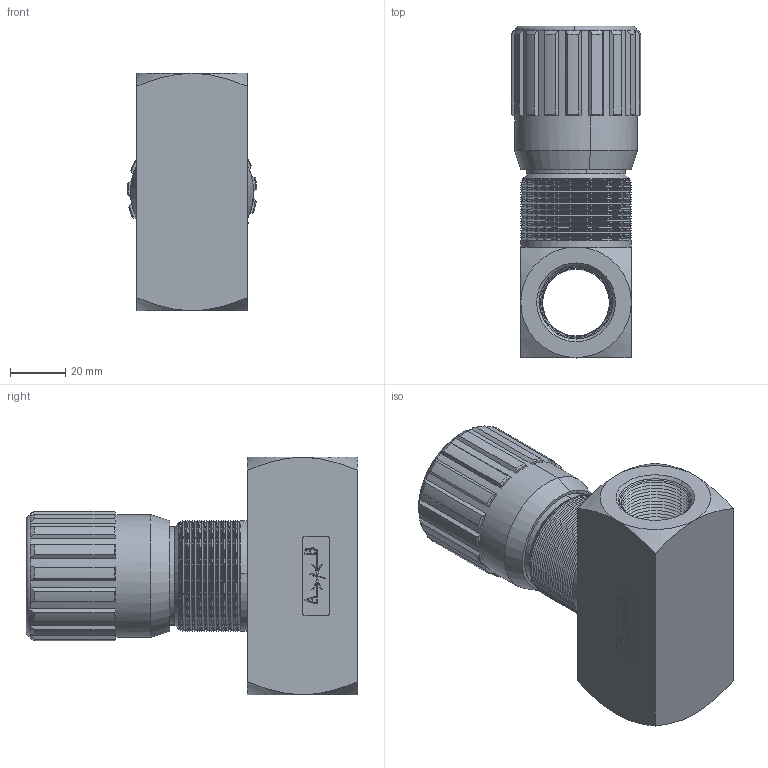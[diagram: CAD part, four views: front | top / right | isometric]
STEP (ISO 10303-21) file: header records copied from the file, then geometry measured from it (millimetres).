
FILE_DESCRIPTION (( 'STEP AP214' ), '1' );
FILE_NAME ('2257-2-34.STEP', '2015-04-11T11:13:05', ( '' ), ( '' ), 'SwSTEP 2.0', 'SolidWorks 2014', '' );
FILE_SCHEMA (( 'AUTOMOTIVE_DESIGN' ));
Length unit declared in the file: millimetre
Products named in the file (1): 2257-2-34
Bounding box: 46.97 x 120 x 86 mm (x, y, z)
Surface area: 39097.5 mm2 (no closed solid volume)
Topology: 0 solids, 33 shells, 705 faces, 2415 edges, 1635 vertices
Faces by surface type: plane 337, cone 226, bspline 78, cylinder 62, torus 2
Entity records: 38968 total; most frequent: CARTESIAN_POINT 11288, ORIENTED_EDGE 3891, DIRECTION 3821, EDGE_CURVE 2415, VERTEX_POINT 1635, LINE 1597, VECTOR 1597, AXIS2_PLACEMENT_3D 1112
